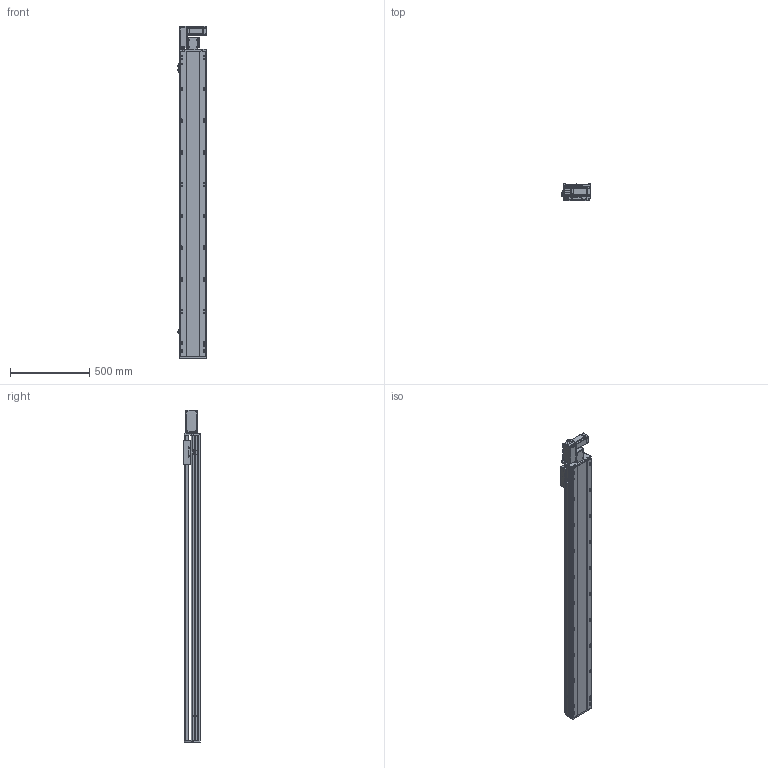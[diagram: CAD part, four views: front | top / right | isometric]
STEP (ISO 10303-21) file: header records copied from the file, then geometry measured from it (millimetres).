
FILE_DESCRIPTION (( 'STEP AP214' ), '1' );
FILE_NAME ('RTB17S-XX-1650-L-M40-C4.STEP', '2025-12-11T05:47:36', ( '' ), ( '' ), 'SwSTEP 2.0', 'SolidWorks 2018', '' );
FILE_SCHEMA (( 'AUTOMOTIVE_DESIGN' ));
Length unit declared in the file: millimetre
Products named in the file (14): OMRON EE-SX672 传感器^RTB17S-XX-XX-L-M40-C4（方程式）; RTB14-L-018P^RTB17S-L-皮带座装配-400W_RTB17S-XX-XX-L-M40-C4（方程式）; RTB17S-L-001侧面板^RTB17S-XX-XX-L-M40-C4（方程式）; RTB17S-L-007上盖^RTB17S-XX-XX-L-M40-C4（方程式）; RTB14-L-017P^RTB17S-L-皮带座装配-400W_RTB17S-XX-XX-L-M40-C4（方程式）; RTB14-L-008-M20--电机板^RTB17S-L-皮带座装配-400W_RTB17S-XX-XX-L-M40-C4（方程式）; RTB17-R-011底座^RTB17S-XX-XX-L-M40-C4（方程式）; RTB14-L-005P--轴承塑胶压盖^RTB17S-L-皮带座装配-400W_RTB17S-XX-XX-L-M40-C4（方程式）; 400W伺服电机^RTB17S-XX-XX-L-M40-C4（方程式）; RTB17S-L-皮带座装配-400W^RTB17S-XX-XX-L-M40-C4（方程式）; RMP17S-L-014-T20--皮带座^RTB17S-L-皮带座装配-400W_RTB17S-XX-XX-L-M40-C4（方程式）; RTB17S-XX-1650-L-M40-C4; RTH13-BL-012感应片外置^RTB17S-XX-XX-L-M40-C4（方程式）; RTB17S-L-004丝杆螺母连接座^RTB17S-XX-XX-L-M40-C4（方程式）
Assembly tree (16 placements, depth 3):
  RTB17S-XX-1650-L-M40-C4
    RTB17-R-011底座^RTB17S-XX-XX-L-M40-C4（方程式）
    RTB17S-L-007上盖^RTB17S-XX-XX-L-M40-C4（方程式）
    OMRON EE-SX672 传感器^RTB17S-XX-XX-L-M40-C4（方程式）  x3
    RTB17S-L-001侧面板^RTB17S-XX-XX-L-M40-C4（方程式）
    400W伺服电机^RTB17S-XX-XX-L-M40-C4（方程式）
    RTB17S-L-004丝杆螺母连接座^RTB17S-XX-XX-L-M40-C4（方程式）
    RTH13-BL-012感应片外置^RTB17S-XX-XX-L-M40-C4（方程式）
    RTB17S-L-皮带座装配-400W^RTB17S-XX-XX-L-M40-C4（方程式）
      RMP17S-L-014-T20--皮带座^RTB17S-L-皮带座装配-400W_RTB17S-XX-XX-L-M40-C4（方程式）
      RTB14-L-005P--轴承塑胶压盖^RTB17S-L-皮带座装配-400W_RTB17S-XX-XX-L-M40-C4（方程式）
      RTB14-L-008-M20--电机板^RTB17S-L-皮带座装配-400W_RTB17S-XX-XX-L-M40-C4（方程式）
      RTB14-L-017P^RTB17S-L-皮带座装配-400W_RTB17S-XX-XX-L-M40-C4（方程式）  x2
      RTB14-L-018P^RTB17S-L-皮带座装配-400W_RTB17S-XX-XX-L-M40-C4（方程式）
Bounding box: 186 x 108 x 2091 mm (x, y, z)
Volume: 17669812 mm3; surface area: 2077902.9 mm2
Topology: 15 solids, 15 shells, 2269 faces, 6303 edges, 4113 vertices
Faces by surface type: plane 1076, cylinder 745, bspline 301, cone 139, torus 8
Entity records: 65705 total; most frequent: CARTESIAN_POINT 18508, ORIENTED_EDGE 9450, DIRECTION 8756, EDGE_CURVE 4725, VERTEX_POINT 3101, AXIS2_PLACEMENT_3D 3031, VECTOR 2694, LINE 2694
